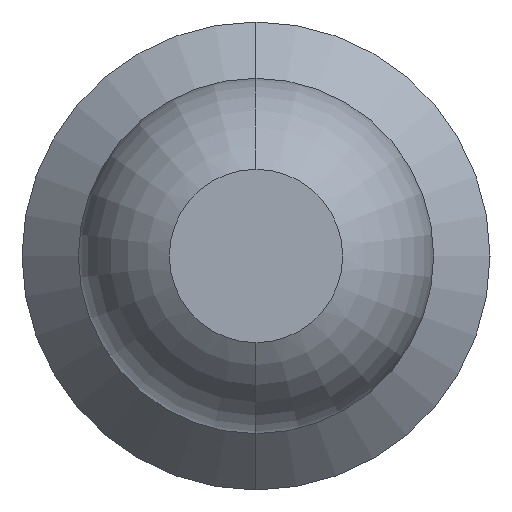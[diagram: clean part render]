
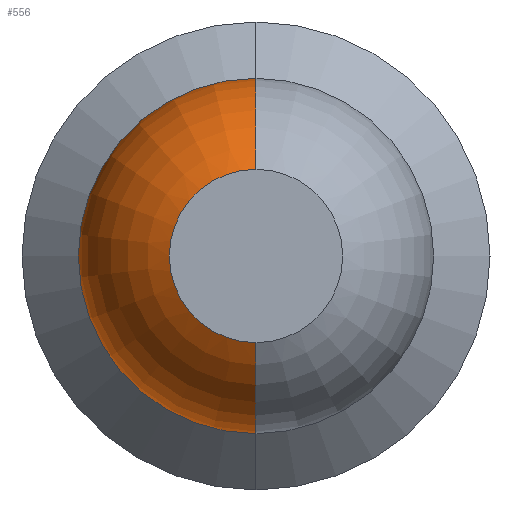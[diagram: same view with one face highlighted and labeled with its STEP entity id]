
A CAD part, left-side view. The second image highlights one B-rep face of the part: STEP entity #556.
In plain terms, the highlighted toroidal (fillet/blend) face has major radius 0.006 mm and minor radius 0.254 mm.
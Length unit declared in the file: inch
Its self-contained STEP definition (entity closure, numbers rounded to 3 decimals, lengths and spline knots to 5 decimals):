
#5 = VERTEX_POINT ( 'NONE', #418 ) ;
#15 = ORIENTED_EDGE ( 'NONE', *, *, #549, .T. ) ;
#23 = DIRECTION ( 'NONE',  ( 0., 0., 1. ) ) ;
#31 = CARTESIAN_POINT ( 'NONE',  ( 0.0088, 0., 0. ) ) ;
#37 = AXIS2_PLACEMENT_3D ( 'NONE', #260, #468, #557 ) ;
#45 = CARTESIAN_POINT ( 'NONE',  ( 0.0088, 0., 0. ) ) ;
#50 = VERTEX_POINT ( 'NONE', #536 ) ;
#54 = DIRECTION ( 'NONE',  ( -1., 0., 0. ) ) ;
#56 = ORIENTED_EDGE ( 'NONE', *, *, #327, .T. ) ;
#75 = CARTESIAN_POINT ( 'NONE',  ( 0., 0., 0.005 ) ) ;
#141 = CIRCLE ( 'NONE', #525, 0.005 ) ;
#157 = VERTEX_POINT ( 'NONE', #279 ) ;
#203 = CARTESIAN_POINT ( 'NONE',  ( 0.0088, 0., 0.00025 ) ) ;
#251 = AXIS2_PLACEMENT_3D ( 'NONE', #31, #269, #23 ) ;
#260 = CARTESIAN_POINT ( 'NONE',  ( 0.0088, 0., -0.00025 ) ) ;
#269 = DIRECTION ( 'NONE',  ( -1., 0., 0. ) ) ;
#279 = CARTESIAN_POINT ( 'NONE',  ( 0.0088, 0., 0.01025 ) ) ;
#308 = DIRECTION ( 'NONE',  ( 0., 0., 1. ) ) ;
#313 = ORIENTED_EDGE ( 'NONE', *, *, #613, .F. ) ;
#320 = CIRCLE ( 'NONE', #37, 0.01 ) ;
#327 = EDGE_CURVE ( 'NONE', #50, #5, #320, .T. ) ;
#351 = AXIS2_PLACEMENT_3D ( 'NONE', #203, #658, #620 ) ;
#361 = CARTESIAN_POINT ( 'NONE',  ( 0., 0., 0. ) ) ;
#376 = TOROIDAL_SURFACE ( 'NONE', #601, 0.00025, 0.01 ) ;
#414 = DIRECTION ( 'NONE',  ( 0., 0., 1. ) ) ;
#418 = CARTESIAN_POINT ( 'NONE',  ( 0., 0., -0.005 ) ) ;
#467 = CIRCLE ( 'NONE', #351, 0.01 ) ;
#468 = DIRECTION ( 'NONE',  ( 0., 1., 0. ) ) ;
#490 = FACE_OUTER_BOUND ( 'NONE', #593, .T. ) ;
#525 = AXIS2_PLACEMENT_3D ( 'NONE', #361, #561, #308 ) ;
#536 = CARTESIAN_POINT ( 'NONE',  ( 0.0088, 0., -0.01025 ) ) ;
#538 = VERTEX_POINT ( 'NONE', #75 ) ;
#549 = EDGE_CURVE ( 'NONE', #157, #50, #553, .T. ) ;
#553 = CIRCLE ( 'NONE', #251, 0.01025 ) ;
#556 = ADVANCED_FACE ( 'NONE', ( #490 ), #376, .T. ) ;
#557 = DIRECTION ( 'NONE',  ( 0., 0., 1. ) ) ;
#561 = DIRECTION ( 'NONE',  ( -1., 0., 0. ) ) ;
#593 = EDGE_LOOP ( 'NONE', ( #15, #56, #313, #641 ) ) ;
#601 = AXIS2_PLACEMENT_3D ( 'NONE', #45, #54, #414 ) ;
#612 = EDGE_CURVE ( 'NONE', #157, #538, #467, .T. ) ;
#613 = EDGE_CURVE ( 'NONE', #538, #5, #141, .T. ) ;
#620 = DIRECTION ( 'NONE',  ( 0., 0., -1. ) ) ;
#641 = ORIENTED_EDGE ( 'NONE', *, *, #612, .F. ) ;
#658 = DIRECTION ( 'NONE',  ( 0., -1., 0. ) ) ;
